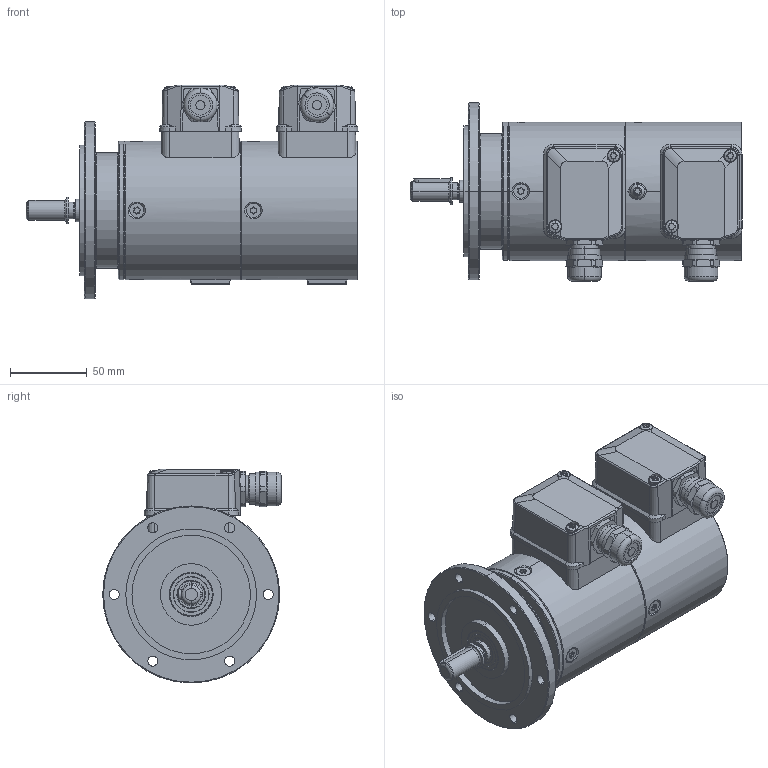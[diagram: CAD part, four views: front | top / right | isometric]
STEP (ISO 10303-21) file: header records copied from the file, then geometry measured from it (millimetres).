
FILE_DESCRIPTION (( 'STEP AP214' ), '1' );
FILE_NAME ('8.H100.112X.XXXX.STEP', '2011-01-31T07:17:28', ( 'admin' ), ( 'Fritz Kübler GmbH' ), 'SwSTEP 2.0', 'SolidWorks 2009', '' );
FILE_SCHEMA (( 'AUTOMOTIVE_DESIGN' ));
Length unit declared in the file: millimetre
Products named in the file (1): 8.H100.112X.XXXX
Bounding box: 215.7 x 116.02 x 139 mm (x, y, z)
Surface area: 108703.2 mm2 (no closed solid volume)
Topology: 0 solids, 26 shells, 659 faces, 1798 edges, 1174 vertices
Faces by surface type: cylinder 346, plane 141, cone 105, bspline 30, torus 21, sphere 16
Entity records: 32163 total; most frequent: CARTESIAN_POINT 8257, DIRECTION 3622, ORIENTED_EDGE 3366, EDGE_CURVE 1798, AXIS2_PLACEMENT_3D 1459, VERTEX_POINT 1174, CIRCLE 829, EDGE_LOOP 718
